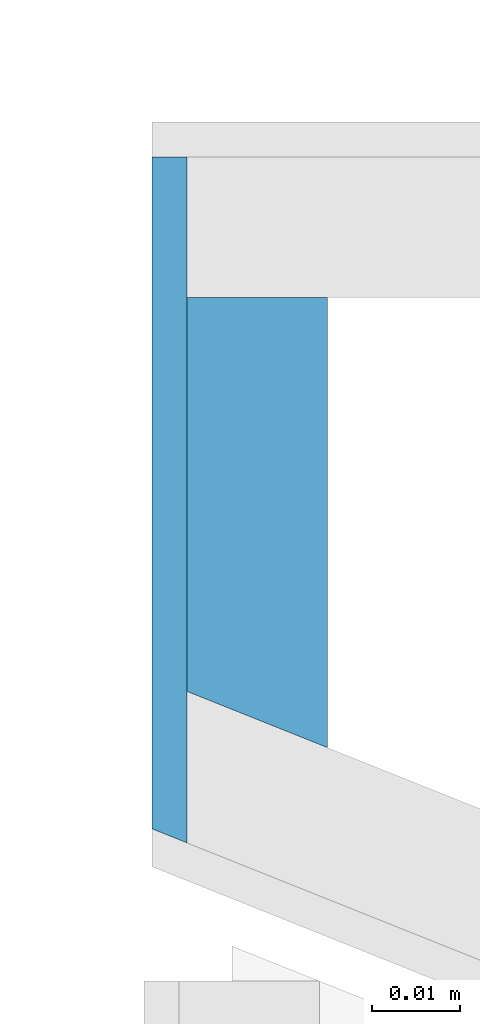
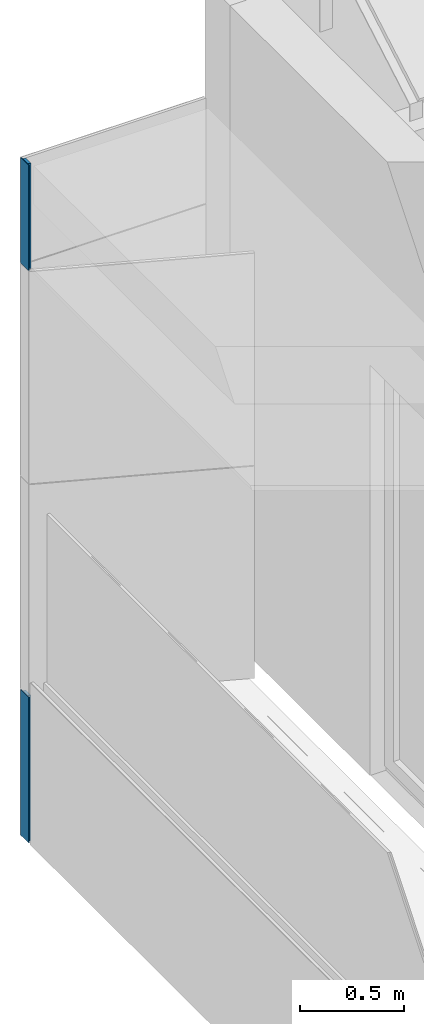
# One storey, part 16 of 57: 4 building element parts, 1 element without a shape of its own.
"""IFC2X3 building model written with IfcOpenShell, lengths in millimetres."""

from ifc_helpers import new_model, entity, si_unit, converted_unit, direction, frame, origin, place, context, subcontext, project, spatial, polyline, outline, extrude, material, type_object, element, aggregate, save


model = new_model("IFC2X3")

# Units and contexts
model_context = context("Model", 3, precision=0.01, world=origin(), true_north=direction((6.123233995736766e-17, 1.0)))
plan_context = context("Plan", 3, precision=0.01, world=origin(), true_north=direction((6.123233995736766e-17, 1.0)))
body_context = subcontext(model_context, "Body", "Model", "MODEL_VIEW")
ifc_project = project(units=[si_unit("LENGTHUNIT", "METRE", prefix="MILLI"), converted_unit("PLANEANGLEUNIT", "DEGREE", entity("IfcPlaneAngleMeasure", 0.017453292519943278), si_unit("PLANEANGLEUNIT", "RADIAN"), dimensions=[0, 0, 0, 0, 0, 0, 0]), si_unit("AREAUNIT", "SQUARE_METRE")], contexts=[model_context, plan_context])

# Site, building, storey
site_placement = place(None, origin())
site = spatial("IfcSite", under=ifc_project, at=site_placement, Name="Default", CompositionType="ELEMENT")
building_placement = place(site_placement, origin())
building = spatial("IfcBuilding", under=site, at=building_placement, CompositionType="ELEMENT")
storey_placement = place(building_placement, frame((0.0, 0.0, 12811.000000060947)))
storey = spatial("IfcBuildingStorey", under=building, at=storey_placement, Name="5K", CompositionType="ELEMENT", Elevation=12811.000000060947)

# Wall, building element parts
wall_type = type_object("IfcWallType", Name="Basic Wall:VS-komposiit", PredefinedType="STANDARD")
wall_placement = place(storey_placement, frame((-1441.0, 15760.776456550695, -946.0), z_axis=(0.0, 0.0, 1.0), x_axis=(0.0, 1.0, 0.0)))
wall = element("IfcWall", 1, at=wall_placement, inside=storey, type_object=wall_type, Name="Basic Wall:VS-komposiit", ObjectType="Basic Wall:VS-komposiit")
ifc_material_1 = material(Name="_K. Välisviimistlus. Alumiinium-komposiitplaat")
building_element_part_1_placement = place(wall_placement, origin())
building_element_part_1 = element("IfcBuildingElementPart", 2, at=building_element_part_1_placement, material=ifc_material_1, Name="Part", context=body_context, shape_type="SweptSolid", body=[
    extrude(outline(polyline([(-38.62600810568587, -2.0), (37.82590143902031, -2.0), (39.42611477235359, 2.0), (-38.62600810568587, 2.0), (-38.62600810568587, -2.0)])), frame((28.594123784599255, 8.0, 0.0), z_axis=(0.0, 0.0, 1.0), x_axis=(-1.0, 0.0, 0.0)), (0.0, 0.0, 1.0), 851.0000000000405),
])
ifc_material_2 = material(Name="_K. Õhk. Roov. Fassaadikatte alusroov. Horisontaalne. 25 mm")
building_element_part_2_placement = place(wall_placement, origin())
building_element_part_2 = element("IfcBuildingElementPart", 3, at=building_element_part_2_placement, material=ifc_material_2, Name="Part", context=body_context, shape_type="SweptSolid", body=[
    extrude(outline(polyline([(-24.009852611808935, -8.0), (20.80942594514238, -8.0), (27.210279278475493, 8.0), (-24.009852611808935, 8.0), (-24.009852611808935, -8.0)])), frame((27.210279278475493, -2.0, 0.0), z_axis=(0.0, 0.0, 1.0), x_axis=(-1.0, 0.0, 0.0)), (0.0, 0.0, 1.0), 851.0000000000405),
])
building_element_part_3_placement = place(wall_placement, origin())
building_element_part_3 = element("IfcBuildingElementPart", 4, at=building_element_part_3_placement, material=ifc_material_2, Name="Part", context=body_context, shape_type="SweptSolid", body=[
    extrude(outline(polyline([(-24.009852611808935, -8.0), (20.80942594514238, -8.0), (27.210279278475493, 8.0), (-24.009852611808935, 8.0), (-24.009852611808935, -8.0)])), frame((27.210279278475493, -2.0, 3346.0), z_axis=(0.0, 0.0, 1.0), x_axis=(-1.0, 0.0, 0.0)), (0.0, 0.0, 1.0), 614.9999999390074),
])
building_element_part_4_placement = place(wall_placement, origin())
building_element_part_4 = element("IfcBuildingElementPart", 5, at=building_element_part_4_placement, material=ifc_material_1, Name="Part", context=body_context, shape_type="SweptSolid", body=[
    extrude(outline(polyline([(-38.62600810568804, -2.0), (37.82590143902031, -2.0), (39.42611477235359, 2.0), (-38.62600810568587, 2.0), (-38.62600810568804, -2.0)])), frame((28.594123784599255, 8.0, 3346.0), z_axis=(0.0, 0.0, 1.0), x_axis=(-1.0, 0.0, 0.0)), (0.0, 0.0, 1.0), 614.9999999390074),
])
aggregate(wall, [building_element_part_1, building_element_part_2, building_element_part_3, building_element_part_4])

save(model, "model.ifc")
